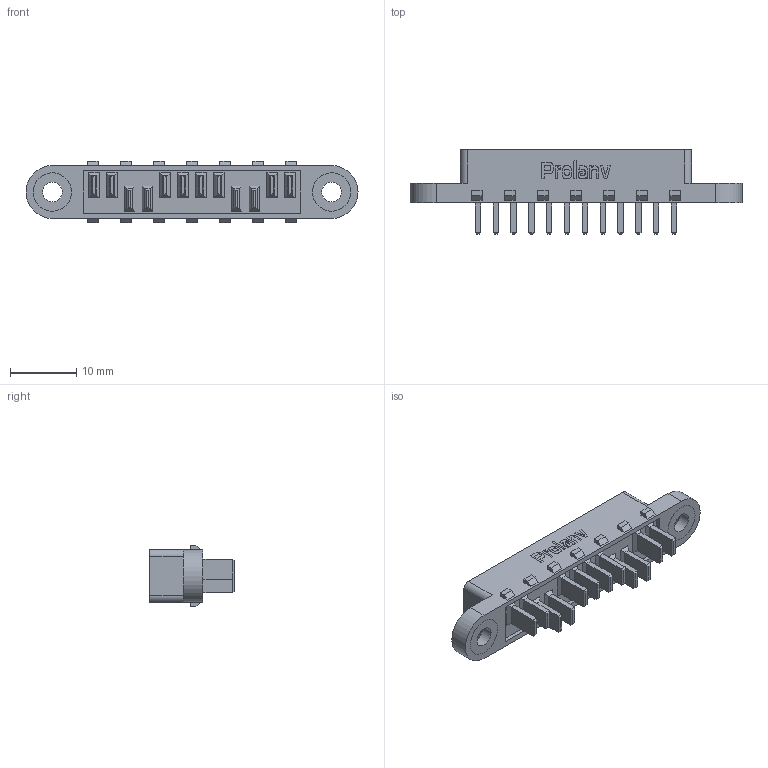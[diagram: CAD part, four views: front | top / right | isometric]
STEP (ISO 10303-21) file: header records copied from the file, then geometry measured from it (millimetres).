
FILE_DESCRIPTION(/* description */ (''),/* implementation_level */ '2;1');
FILE_NAME(/* name */ '15.stp',/* time_stamp */ '2024-06-13T15:17:36+08:00',/* author */ (''),/* organization */ (''),/* preprocessor_version */ 'ST-DEVELOPER v16.7',/* originating_system */ 'SIEMENS PLM Software NX 1946',/* authorisation */ '');
FILE_SCHEMA (('AUTOMOTIVE_DESIGN { 1 0 10303 214 3 1 1 1 }'));
Length unit declared in the file: millimetre
Products named in the file (1): _model1
Bounding box: 50.3 x 12.8 x 9.3 mm (x, y, z)
Volume: 1719.3 mm3; surface area: 2879.2 mm2
Topology: 1 solids, 1 shells, 728 faces, 1850 edges, 1200 vertices
Faces by surface type: plane 572, cylinder 88, extrusion 60, bspline 4, cone 4
Entity records: 23835 total; most frequent: CARTESIAN_POINT 4983, ORIENTED_EDGE 3700, DIRECTION 3176, EDGE_CURVE 1850, VECTOR 1462, LINE 1402, VERTEX_POINT 1200, AXIS2_PLACEMENT_3D 857
